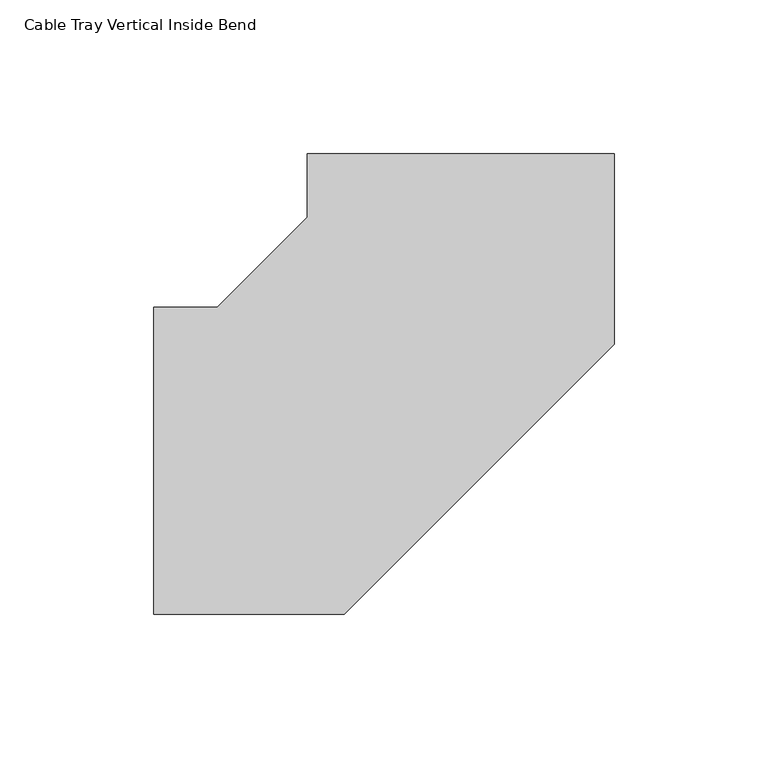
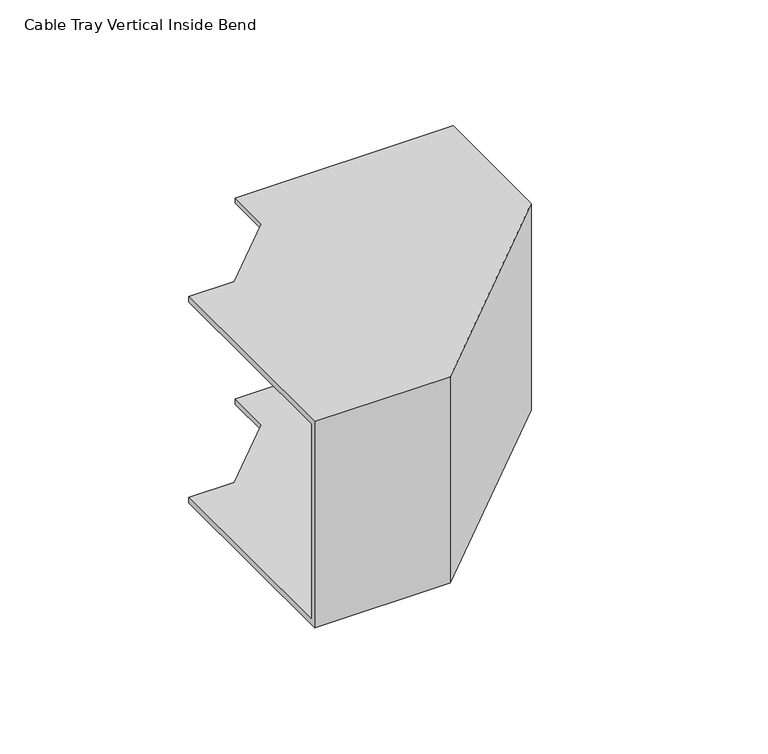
"""IFC4 building model written with IfcOpenShell, lengths in millimetres: cable carrier fitting geometry, Cable Tray Vertical Inside Bend : ELEC_ELV_TKG_N2402."""

from ifc_helpers import new_model, si_unit, origin, place, context, project, spatial, faceted_brep, source, transform, mapped, element, save


def cable_tray_vertical_inside_bend_649f0518(model_context):
    return source(origin(), model_context, "Body", "Brep", [
        faceted_brep([(-100.0, 50.0, 50.0), (-100.0, 50.0, 47.46), (-100.0, -47.46, 47.46), (-100.0, -47.46, -47.46), (-100.0, 50.0, -47.46), (-100.0, 50.0, -50.0), (-100.0, -50.0, -50.0), (-100.0, -50.0, 50.0), (-50.0, 100.0, 50.0), (50.0, 100.0, 50.0), (50.0, 100.0, -50.0), (-50.0, 100.0, -50.0), (-50.0, 100.0, -47.46), (47.46, 100.0, -47.46), (47.46, 100.0, 47.46), (-50.0, 100.0, 47.46), (-79.2893219, 50.0, 50.0), (-79.2893219, 50.0, 47.46), (-50.0, 79.2893219, 47.46), (47.46, 38.9200681, 47.46), (-38.9200681, -47.46, 47.46), (-38.9200681, -47.46, -47.46), (47.46, 38.9200681, -47.46), (-50.0, 79.2893219, -47.46), (-79.2893219, 50.0, -47.46), (-79.2893219, 50.0, -50.0), (-50.0, 79.2893219, -50.0), (50.0, 37.8679656, -50.0), (-37.8679656, -50.0, -50.0), (-37.8679656, -50.0, 50.0), (50.0, 37.8679656, 50.0), (-50.0, 79.2893219, 50.0)], [[[0, 1, 2, 3, 4, 5, 6, 7]], [[8, 9, 10, 11, 12, 13, 14, 15]], [[1, 0, 16, 17]], [[2, 1, 17, 18, 15, 14, 19, 20]], [[3, 2, 20, 21]], [[4, 3, 21, 22, 13, 12, 23, 24]], [[5, 4, 24, 25]], [[6, 5, 25, 26, 11, 10, 27, 28]], [[7, 6, 28, 29]], [[0, 7, 29, 30, 9, 8, 31, 16]], [[17, 16, 31, 18]], [[21, 20, 19, 22]], [[25, 24, 23, 26]], [[29, 28, 27, 30]], [[18, 31, 8, 15]], [[22, 19, 14, 13]], [[26, 23, 12, 11]], [[30, 27, 10, 9]]]),
    ])


if __name__ == "__main__":
    model = new_model("IFC4")
    model_context = context("Model", 3, world=origin())
    ifc_project = project(units=[si_unit("LENGTHUNIT", "METRE", prefix="MILLI")], contexts=[model_context])
    site = spatial("IfcSite", under=ifc_project)
    building = spatial("IfcBuilding", under=site)
    placement = place(None, origin())
    cable_tray_vertical_inside_bend_shape = cable_tray_vertical_inside_bend_649f0518(model_context)
    element("IfcCableCarrierFitting", 1, ObjectType="Cable Tray Vertical Inside Bend : ELEC_ELV_TKG_N2402", at=placement, inside=building, context=model_context, shape_type="MappedRepresentation", body=[
        mapped(cable_tray_vertical_inside_bend_shape, transform((0.0, 0.0, 0.0), x_axis=(1.0, 0.0, 0.0), y_axis=(0.0, 1.0, 0.0), z_axis=(0.0, 0.0, 1.0))),
    ])
    save(model, "model.ifc")
